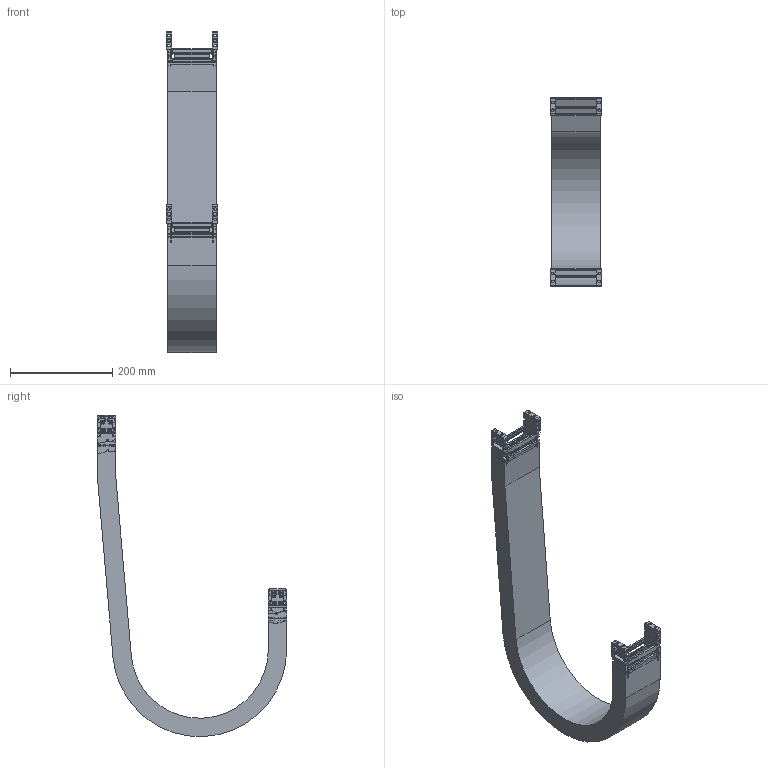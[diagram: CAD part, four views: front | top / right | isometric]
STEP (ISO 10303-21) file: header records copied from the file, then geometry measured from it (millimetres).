
FILE_DESCRIPTION((''),'2;1');
FILE_NAME('KST-25080-150_ASM','2017-12-05T',('KUNI004K'),(''),'PRO/ENGINEER BY PARAMETRIC TECHNOLOGY CORPORATION, 2015200','PRO/ENGINEER BY PARAMETRIC TECHNOLOGY CORPORATION, 2015200','');
FILE_SCHEMA(('AUTOMOTIVE_DESIGN { 1 0 10303 214 1 1 1 1 }'));
Length unit declared in the file: millimetre
Products named in the file (13): 25FBR; 25FBL; 25080C; KST25FBR_W080_ASM; 25150R; 25150L; 25080H; KST25080-150_1_ASM; KST25080_R150_BODY; 25MBR; 25MBL; KST25MBR_W080_ASM; KST-25080-150_ASM
Assembly tree (19 placements, depth 3):
  KST-25080-150_ASM
    KST25FBR_W080_ASM
      25FBR
      25FBL
      25080C  x2
    KST25080-150_1_ASM  x2
      25150R
      25150L
      25080C
      25080H
    KST25080_R150_BODY
    KST25MBR_W080_ASM
      25MBR
      25MBL
      25080C  x2
Bounding box: 100 x 371 x 629.14 mm (x, y, z)
Volume: 1409237.3 mm3; surface area: 674356 mm2
Topology: 21 solids, 21 shells, 2644 faces, 7370 edges, 4784 vertices
Faces by surface type: plane 1378, cylinder 962, bspline 208, sphere 64, torus 32
Entity records: 69461 total; most frequent: CARTESIAN_POINT 14406, ORIENTED_EDGE 7492, DIRECTION 6596, PRESENTATION_STYLE_ASSIGNMENT 5062, STYLED_ITEM 5062, CURVE_STYLE 3746, EDGE_CURVE 3746, VECTOR 2486
